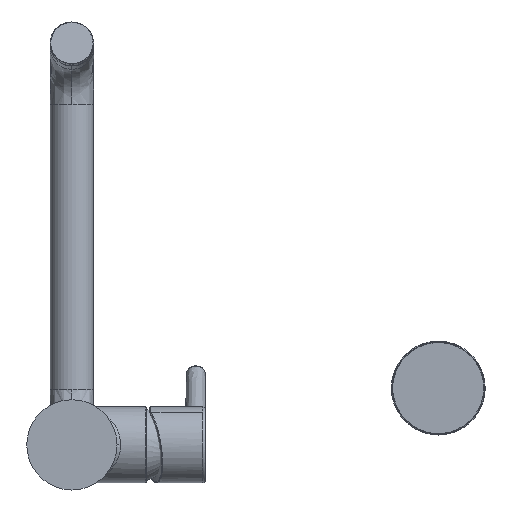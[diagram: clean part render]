
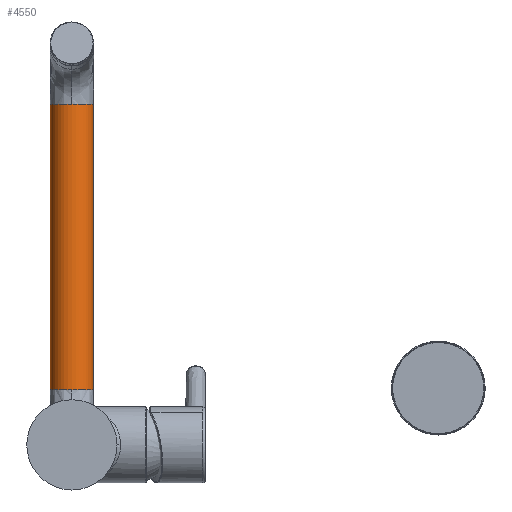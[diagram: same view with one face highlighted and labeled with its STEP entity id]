
A CAD part, front view. The second image highlights one B-rep face of the part: STEP entity #4550.
In plain terms, the highlighted cylindrical face has radius 12 mm (diameter 24 mm), a partial arc.
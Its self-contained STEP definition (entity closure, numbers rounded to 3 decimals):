
#733 = DIRECTION ( 'NONE',  ( 0., 0., 1. ) ) ;
#920 = DIRECTION ( 'NONE',  ( 1., 0., 0. ) ) ;
#1049 = CIRCLE ( 'NONE', #5980, 12. ) ;
#1551 = AXIS2_PLACEMENT_3D ( 'NONE', #5129, #6115, #920 ) ;
#2079 = CIRCLE ( 'NONE', #1551, 12. ) ;
#2138 = CARTESIAN_POINT ( 'NONE',  ( 0., 317.9, 27.44 ) ) ;
#2185 = VERTEX_POINT ( 'NONE', #3002 ) ;
#2212 = CIRCLE ( 'NONE', #7447, 12. ) ;
#2509 = CARTESIAN_POINT ( 'NONE',  ( 0., 317.9, 30.6 ) ) ;
#2627 = EDGE_CURVE ( 'NONE', #8586, #5994, #1049, .T. ) ;
#2725 = DIRECTION ( 'NONE',  ( 0., 0., -1. ) ) ;
#2853 = EDGE_LOOP ( 'NONE', ( #9722, #4475, #3217, #3561, #9443, #4799 ) ) ;
#2968 = DIRECTION ( 'NONE',  ( 1., 0., 0. ) ) ;
#2978 = VECTOR ( 'NONE', #733, 1000. ) ;
#3002 = CARTESIAN_POINT ( 'NONE',  ( 0., 305.9, 30.6 ) ) ;
#3127 = DIRECTION ( 'NONE',  ( 0., 0., 1. ) ) ;
#3217 = ORIENTED_EDGE ( 'NONE', *, *, #5966, .T. ) ;
#3344 = DIRECTION ( 'NONE',  ( 0., 0., -1. ) ) ;
#3394 = CARTESIAN_POINT ( 'NONE',  ( 12., 317.9, 27.44 ) ) ;
#3561 = ORIENTED_EDGE ( 'NONE', *, *, #7629, .T. ) ;
#3799 = EDGE_CURVE ( 'NONE', #8954, #5994, #5270, .T. ) ;
#4201 = DIRECTION ( 'NONE',  ( 1., 0., 0. ) ) ;
#4322 = CARTESIAN_POINT ( 'NONE',  ( -12., 317.9, 188.599 ) ) ;
#4475 = ORIENTED_EDGE ( 'NONE', *, *, #10016, .T. ) ;
#4550 = ADVANCED_FACE ( 'NONE', ( #10552 ), #8195, .T. ) ;
#4799 = ORIENTED_EDGE ( 'NONE', *, *, #2627, .T. ) ;
#5129 = CARTESIAN_POINT ( 'NONE',  ( 0., 317.9, 30.6 ) ) ;
#5190 = LINE ( 'NONE', #3394, #6857 ) ;
#5270 = LINE ( 'NONE', #9323, #2978 ) ;
#5966 = EDGE_CURVE ( 'NONE', #2185, #9136, #2079, .T. ) ;
#5980 = AXIS2_PLACEMENT_3D ( 'NONE', #7724, #3344, #4201 ) ;
#5994 = VERTEX_POINT ( 'NONE', #4322 ) ;
#6115 = DIRECTION ( 'NONE',  ( 0., 0., 1. ) ) ;
#6857 = VECTOR ( 'NONE', #7810, 1000. ) ;
#7447 = AXIS2_PLACEMENT_3D ( 'NONE', #10626, #2725, #8108 ) ;
#7629 = EDGE_CURVE ( 'NONE', #9136, #10911, #5190, .T. ) ;
#7719 = AXIS2_PLACEMENT_3D ( 'NONE', #2509, #8650, #8609 ) ;
#7724 = CARTESIAN_POINT ( 'NONE',  ( 0., 317.9, 188.599 ) ) ;
#7810 = DIRECTION ( 'NONE',  ( 0., 0., 1. ) ) ;
#8030 = CARTESIAN_POINT ( 'NONE',  ( 0., 305.9, 188.599 ) ) ;
#8108 = DIRECTION ( 'NONE',  ( 1., 0., 0. ) ) ;
#8195 = CYLINDRICAL_SURFACE ( 'NONE', #9941, 12. ) ;
#8526 = EDGE_CURVE ( 'NONE', #10911, #8586, #2212, .T. ) ;
#8586 = VERTEX_POINT ( 'NONE', #8030 ) ;
#8609 = DIRECTION ( 'NONE',  ( 1., 0., 0. ) ) ;
#8650 = DIRECTION ( 'NONE',  ( 0., 0., 1. ) ) ;
#8954 = VERTEX_POINT ( 'NONE', #11082 ) ;
#9136 = VERTEX_POINT ( 'NONE', #11367 ) ;
#9323 = CARTESIAN_POINT ( 'NONE',  ( -12., 317.9, 27.44 ) ) ;
#9443 = ORIENTED_EDGE ( 'NONE', *, *, #8526, .T. ) ;
#9722 = ORIENTED_EDGE ( 'NONE', *, *, #3799, .F. ) ;
#9766 = CIRCLE ( 'NONE', #7719, 12. ) ;
#9941 = AXIS2_PLACEMENT_3D ( 'NONE', #2138, #3127, #2968 ) ;
#10016 = EDGE_CURVE ( 'NONE', #8954, #2185, #9766, .T. ) ;
#10473 = CARTESIAN_POINT ( 'NONE',  ( 12., 317.9, 188.599 ) ) ;
#10552 = FACE_OUTER_BOUND ( 'NONE', #2853, .T. ) ;
#10626 = CARTESIAN_POINT ( 'NONE',  ( 0., 317.9, 188.599 ) ) ;
#10911 = VERTEX_POINT ( 'NONE', #10473 ) ;
#11082 = CARTESIAN_POINT ( 'NONE',  ( -12., 317.9, 30.6 ) ) ;
#11367 = CARTESIAN_POINT ( 'NONE',  ( 12., 317.9, 30.6 ) ) ;
